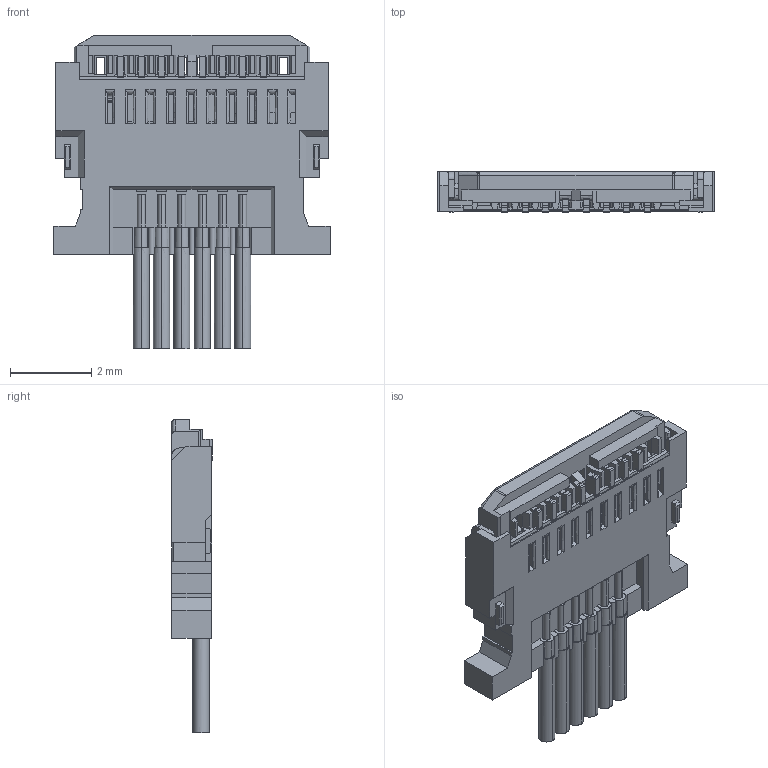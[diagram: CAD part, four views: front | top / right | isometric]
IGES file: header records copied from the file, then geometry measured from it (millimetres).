
Start section: SolidWorks IGES file using analytic representation for surfaces
Global section: file name: \\3D-CAD-10-2\3dwork\fukumoto\6P DW Connector\試作　改訂130110\130430_第二回改造DR形状\3Dまとめ\MATTING-ASSY 6P.IGS; native system: SolidWorks 2012; preprocessor: SolidWorks 2012; author: 3dcad; date: 150722.162224; units: millimetre
Bounding box: 6.8 x 1 x 7.72 mm (x, y, z)
Surface area: 144.9 mm2 (no closed solid volume)
Topology: 0 solids, 0 shells, 960 faces, 6523 edges, 6519 vertices
Faces by surface type: bspline 749, revolution 211
